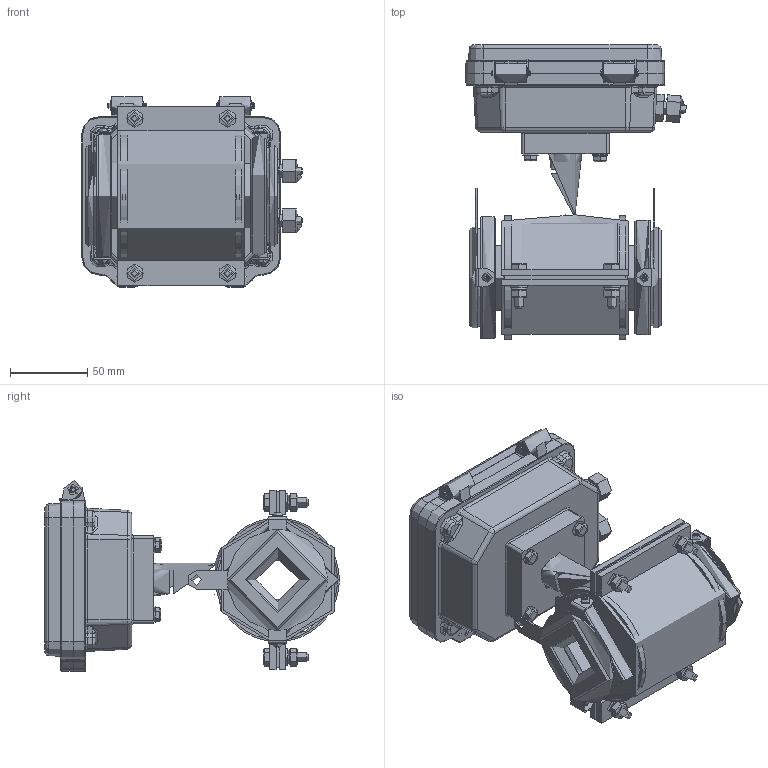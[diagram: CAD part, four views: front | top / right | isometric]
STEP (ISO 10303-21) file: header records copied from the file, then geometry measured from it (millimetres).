
FILE_DESCRIPTION(('STEP AP214'), '1');
FILE_NAME('Âçëåò ÝÌ ÏÐÎÔÈ DN32 Ñýíäâè÷', '', ('UNSPECIFIED'), ('UNSPECIFIED'), 'ASCON STEP Converter 1.6', 'ASCON Math Kernel', '');
FILE_SCHEMA(('AUTOMOTIVE_DESIGN { 1 0 10303 214 3 1 1}'));
Length unit declared in the file: millimetre
Products named in the file (1): 婽挭.407212.031-001.06
Bounding box: 142.42 x 190.6 x 123.45 mm (x, y, z)
Topology: 5 solids, 14 shells, 1439 faces, 3517 edges, 2145 vertices
Faces by surface type: plane 665, cylinder 416, cone 167, torus 147, bspline 38, sphere 6
Full cylindrical faces by diameter (mm): 0.8 x2, 2 x2, 3 x4, 3.242 x14, 3.3 x2, 4 x14, 5 x5, 5.5 x1, 6 x12, 6.4 x4, 7 x19, 7.5 x2, 8 x4, 10 x4, 11 x4, 12 x8, 12.5 x2, 16.5 x2, 18 x1, 19 x1, 20 x1, 21 x2, 25 x1, 29 x1, 30 x1, 40 x2, 42 x1, 42.4 x2, 63 x2, 65 x2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
Entity records: 73185 total; most frequent: CARTESIAN_POINT 23528, DIRECTION 7133, ORIENTED_EDGE 6408, EDGE_CURVE 3204, AXIS2_PLACEMENT_3D 2786, VERTEX_POINT 2119, EDGE_LOOP 1869, LINE 1561
